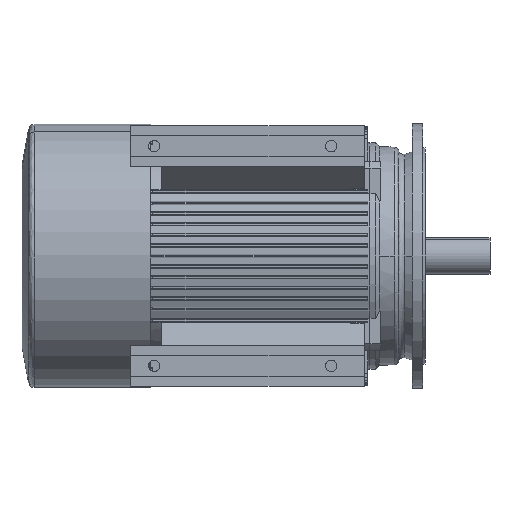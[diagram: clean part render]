
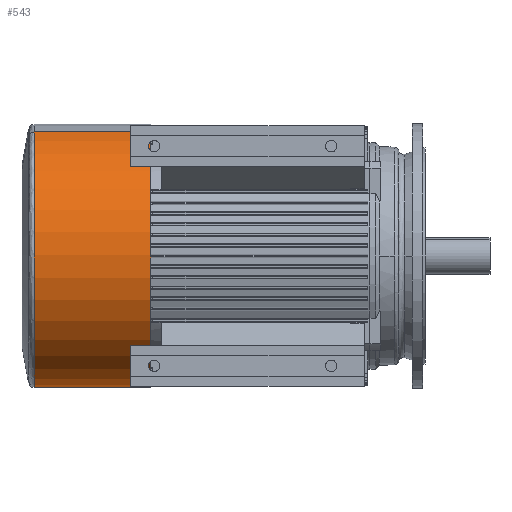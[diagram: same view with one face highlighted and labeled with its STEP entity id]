
A CAD part, front view. The second image highlights one B-rep face of the part: STEP entity #543.
In plain terms, the highlighted cylindrical face has radius 273.5 mm (diameter 547 mm), a partial arc.
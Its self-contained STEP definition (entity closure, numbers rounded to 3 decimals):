
#543 = ADVANCED_FACE ( 'NONE', ( #20219 ), #20194, .T. ) ;
#6833 = DIRECTION ( 'NONE',  ( -1., 0., 0. ) ) ;
#6840 = DIRECTION ( 'NONE',  ( 0., 0., 1. ) ) ;
#6842 = CARTESIAN_POINT ( 'NONE',  ( -98.835, 0., 0. ) ) ;
#8331 = VERTEX_POINT ( 'NONE', #16206 ) ;
#8344 = AXIS2_PLACEMENT_3D ( 'NONE', #10293, #10274, #10266 ) ;
#8358 = VERTEX_POINT ( 'NONE', #16170 ) ;
#8381 = VERTEX_POINT ( 'NONE', #16208 ) ;
#8414 = VERTEX_POINT ( 'NONE', #16200 ) ;
#8461 = AXIS2_PLACEMENT_3D ( 'NONE', #10445, #10442, #10444 ) ;
#10266 = DIRECTION ( 'NONE',  ( 0., 0., 1. ) ) ;
#10274 = DIRECTION ( 'NONE',  ( -1., 0., 0. ) ) ;
#10293 = CARTESIAN_POINT ( 'NONE',  ( 242.777, 0., 0. ) ) ;
#10408 = DIRECTION ( 'NONE',  ( -1., 0., 0. ) ) ;
#10415 = CARTESIAN_POINT ( 'NONE',  ( -98.835, 0., 273.5 ) ) ;
#10442 = DIRECTION ( 'NONE',  ( 1., 0., 0. ) ) ;
#10444 = DIRECTION ( 'NONE',  ( 0., 0., 1. ) ) ;
#10445 = CARTESIAN_POINT ( 'NONE',  ( 0., 0., 0. ) ) ;
#10450 = CARTESIAN_POINT ( 'NONE',  ( -98.835, 0., -273.5 ) ) ;
#10457 = DIRECTION ( 'NONE',  ( -1., 0., 0. ) ) ;
#14321 = ORIENTED_EDGE ( 'NONE', *, *, #17920, .F. ) ;
#14380 = ORIENTED_EDGE ( 'NONE', *, *, #17763, .T. ) ;
#14385 = ORIENTED_EDGE ( 'NONE', *, *, #17863, .T. ) ;
#14393 = ORIENTED_EDGE ( 'NONE', *, *, #17877, .T. ) ;
#14689 = EDGE_LOOP ( 'NONE', ( #14321, #14380, #14385, #14393 ) ) ;
#16170 = CARTESIAN_POINT ( 'NONE',  ( 0., 0., 273.5 ) ) ;
#16200 = CARTESIAN_POINT ( 'NONE',  ( 0., 0., -273.5 ) ) ;
#16206 = CARTESIAN_POINT ( 'NONE',  ( 242.777, 0., -273.5 ) ) ;
#16208 = CARTESIAN_POINT ( 'NONE',  ( 242.777, 0., 273.5 ) ) ;
#17763 = EDGE_CURVE ( 'NONE', #8331, #8381, #23542, .T. ) ;
#17863 = EDGE_CURVE ( 'NONE', #8381, #8358, #23576, .T. ) ;
#17877 = EDGE_CURVE ( 'NONE', #8358, #8414, #23582, .T. ) ;
#17920 = EDGE_CURVE ( 'NONE', #8331, #8414, #23674, .T. ) ;
#18543 = AXIS2_PLACEMENT_3D ( 'NONE', #6842, #6833, #6840 ) ;
#20194 = CYLINDRICAL_SURFACE ( 'NONE', #18543, 273.5 ) ;
#20219 = FACE_OUTER_BOUND ( 'NONE', #14689, .T. ) ;
#23542 = CIRCLE ( 'NONE', #8344, 273.5 ) ;
#23576 = LINE ( 'NONE', #10415, #23577 ) ;
#23577 = VECTOR ( 'NONE', #10408, 1000. ) ;
#23582 = CIRCLE ( 'NONE', #8461, 273.5 ) ;
#23641 = VECTOR ( 'NONE', #10457, 1000. ) ;
#23674 = LINE ( 'NONE', #10450, #23641 ) ;
